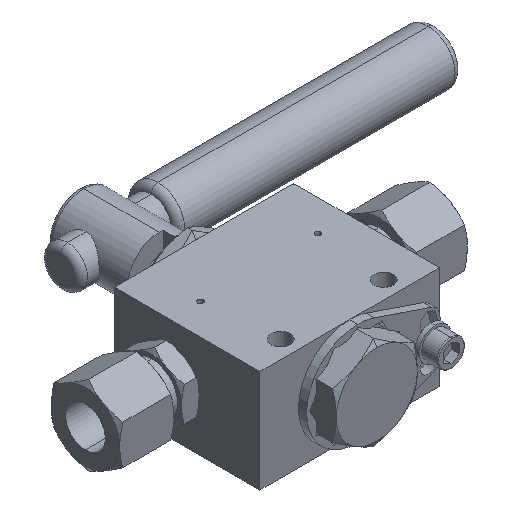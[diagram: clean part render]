
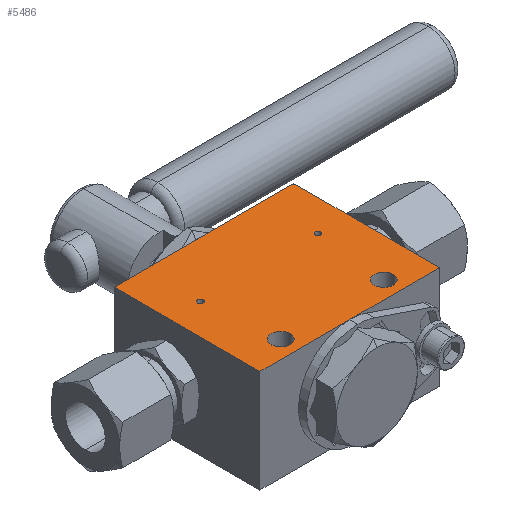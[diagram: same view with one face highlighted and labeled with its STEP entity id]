
A CAD part, isometric view. The second image highlights one B-rep face of the part: STEP entity #5486.
In plain terms, the highlighted planar face has unit normal (0, 0, 1).
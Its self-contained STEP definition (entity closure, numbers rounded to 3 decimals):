
#118 = CARTESIAN_POINT ( 'NONE',  ( 20.75, 6.5, 19. ) ) ;
#296 = EDGE_LOOP ( 'NONE', ( #1774, #8262 ) ) ;
#318 = EDGE_LOOP ( 'NONE', ( #3529, #2280, #2925, #3323, #6274 ) ) ;
#371 = EDGE_LOOP ( 'NONE', ( #1208, #6585 ) ) ;
#417 = DIRECTION ( 'NONE',  ( 1., 0., 0. ) ) ;
#542 = DIRECTION ( 'NONE',  ( 1., 0., 0. ) ) ;
#567 = DIRECTION ( 'NONE',  ( 0., 0., -1. ) ) ;
#638 = EDGE_CURVE ( 'NONE', #932, #3636, #4053, .T. ) ;
#640 = DIRECTION ( 'NONE',  ( 1., 0., 0. ) ) ;
#655 = CARTESIAN_POINT ( 'NONE',  ( -33.25, 27., 19. ) ) ;
#764 = CARTESIAN_POINT ( 'NONE',  ( 33.25, -27., 19. ) ) ;
#767 = CARTESIAN_POINT ( 'NONE',  ( 0., -27., 19. ) ) ;
#784 = AXIS2_PLACEMENT_3D ( 'NONE', #5159, #567, #1966 ) ;
#890 = CARTESIAN_POINT ( 'NONE',  ( -19.05, -20.5, 19. ) ) ;
#932 = VERTEX_POINT ( 'NONE', #2003 ) ;
#1057 = DIRECTION ( 'NONE',  ( 0., 0., 1. ) ) ;
#1100 = CARTESIAN_POINT ( 'NONE',  ( -33.25, 27., 19. ) ) ;
#1208 = ORIENTED_EDGE ( 'NONE', *, *, #4608, .F. ) ;
#1271 = EDGE_CURVE ( 'NONE', #5061, #4314, #1962, .T. ) ;
#1366 = VERTEX_POINT ( 'NONE', #8250 ) ;
#1399 = AXIS2_PLACEMENT_3D ( 'NONE', #7046, #1057, #542 ) ;
#1437 = DIRECTION ( 'NONE',  ( 0., 0., 1. ) ) ;
#1446 = CARTESIAN_POINT ( 'NONE',  ( -20.75, 6.5, 19. ) ) ;
#1710 = VERTEX_POINT ( 'NONE', #764 ) ;
#1768 = DIRECTION ( 'NONE',  ( -1., 0., 0. ) ) ;
#1774 = ORIENTED_EDGE ( 'NONE', *, *, #6614, .F. ) ;
#1913 = VECTOR ( 'NONE', #1768, 1000. ) ;
#1924 = CIRCLE ( 'NONE', #3271, 1. ) ;
#1962 = LINE ( 'NONE', #8297, #4805 ) ;
#1966 = DIRECTION ( 'NONE',  ( -1., 0., 0. ) ) ;
#1970 = VERTEX_POINT ( 'NONE', #655 ) ;
#1998 = EDGE_CURVE ( 'NONE', #1970, #5061, #2368, .T. ) ;
#2003 = CARTESIAN_POINT ( 'NONE',  ( 22.75, 6.5, 19. ) ) ;
#2019 = AXIS2_PLACEMENT_3D ( 'NONE', #4237, #6824, #417 ) ;
#2280 = ORIENTED_EDGE ( 'NONE', *, *, #3458, .T. ) ;
#2368 = LINE ( 'NONE', #3927, #7030 ) ;
#2468 = EDGE_LOOP ( 'NONE', ( #8123, #4719 ) ) ;
#2500 = DIRECTION ( 'NONE',  ( 0., 0., 1. ) ) ;
#2524 = CARTESIAN_POINT ( 'NONE',  ( 15.55, -20.5, 19. ) ) ;
#2556 = FACE_BOUND ( 'NONE', #2468, .T. ) ;
#2675 = EDGE_CURVE ( 'NONE', #1710, #4582, #5403, .T. ) ;
#2676 = CARTESIAN_POINT ( 'NONE',  ( -22.55, -20.5, 19. ) ) ;
#2925 = ORIENTED_EDGE ( 'NONE', *, *, #1998, .T. ) ;
#3271 = AXIS2_PLACEMENT_3D ( 'NONE', #4769, #1437, #6038 ) ;
#3281 = DIRECTION ( 'NONE',  ( 1., 0., 0. ) ) ;
#3323 = ORIENTED_EDGE ( 'NONE', *, *, #1271, .T. ) ;
#3413 = CARTESIAN_POINT ( 'NONE',  ( -22.75, 6.5, 19. ) ) ;
#3458 = EDGE_CURVE ( 'NONE', #4582, #1970, #7393, .T. ) ;
#3522 = ORIENTED_EDGE ( 'NONE', *, *, #8189, .F. ) ;
#3529 = ORIENTED_EDGE ( 'NONE', *, *, #2675, .T. ) ;
#3579 = AXIS2_PLACEMENT_3D ( 'NONE', #5226, #3985, #6607 ) ;
#3636 = VERTEX_POINT ( 'NONE', #118 ) ;
#3797 = FACE_BOUND ( 'NONE', #371, .T. ) ;
#3927 = CARTESIAN_POINT ( 'NONE',  ( -33.25, -27., 19. ) ) ;
#3939 = DIRECTION ( 'NONE',  ( 1., 0., 0. ) ) ;
#3985 = DIRECTION ( 'NONE',  ( 0., 0., 1. ) ) ;
#4046 = VECTOR ( 'NONE', #4726, 1000. ) ;
#4053 = CIRCLE ( 'NONE', #7033, 1. ) ;
#4186 = AXIS2_PLACEMENT_3D ( 'NONE', #890, #4753, #5391 ) ;
#4237 = CARTESIAN_POINT ( 'NONE',  ( -21.75, 6.5, 19. ) ) ;
#4314 = VERTEX_POINT ( 'NONE', #767 ) ;
#4384 = DIRECTION ( 'NONE',  ( 1., 0., 0. ) ) ;
#4568 = EDGE_LOOP ( 'NONE', ( #3522, #6749 ) ) ;
#4582 = VERTEX_POINT ( 'NONE', #5094 ) ;
#4587 = LINE ( 'NONE', #6608, #7026 ) ;
#4608 = EDGE_CURVE ( 'NONE', #6729, #5538, #6832, .T. ) ;
#4681 = CIRCLE ( 'NONE', #3579, 3.5 ) ;
#4719 = ORIENTED_EDGE ( 'NONE', *, *, #7660, .F. ) ;
#4726 = DIRECTION ( 'NONE',  ( 0., 1., 0. ) ) ;
#4751 = EDGE_CURVE ( 'NONE', #6032, #1366, #4681, .T. ) ;
#4753 = DIRECTION ( 'NONE',  ( 0., 0., 1. ) ) ;
#4769 = CARTESIAN_POINT ( 'NONE',  ( 21.75, 6.5, 19. ) ) ;
#4805 = VECTOR ( 'NONE', #640, 1000. ) ;
#4915 = AXIS2_PLACEMENT_3D ( 'NONE', #7197, #5249, #3281 ) ;
#5061 = VERTEX_POINT ( 'NONE', #8307 ) ;
#5094 = CARTESIAN_POINT ( 'NONE',  ( 33.25, 27., 19. ) ) ;
#5159 = CARTESIAN_POINT ( 'NONE',  ( 0., 0., 19. ) ) ;
#5226 = CARTESIAN_POINT ( 'NONE',  ( 19.05, -20.5, 19. ) ) ;
#5249 = DIRECTION ( 'NONE',  ( 0., 0., 1. ) ) ;
#5391 = DIRECTION ( 'NONE',  ( 1., 0., 0. ) ) ;
#5403 = LINE ( 'NONE', #6127, #4046 ) ;
#5423 = CIRCLE ( 'NONE', #7185, 3.5 ) ;
#5486 = ADVANCED_FACE ( 'NONE', ( #7881, #3797, #5790, #8374, #2556 ), #7839, .F. ) ;
#5538 = VERTEX_POINT ( 'NONE', #1446 ) ;
#5781 = VERTEX_POINT ( 'NONE', #5905 ) ;
#5785 = EDGE_CURVE ( 'NONE', #4314, #1710, #4587, .T. ) ;
#5790 = FACE_BOUND ( 'NONE', #4568, .T. ) ;
#5905 = CARTESIAN_POINT ( 'NONE',  ( -15.55, -20.5, 19. ) ) ;
#5908 = EDGE_CURVE ( 'NONE', #5781, #8027, #7853, .T. ) ;
#6002 = EDGE_CURVE ( 'NONE', #5538, #6729, #7587, .T. ) ;
#6032 = VERTEX_POINT ( 'NONE', #2524 ) ;
#6038 = DIRECTION ( 'NONE',  ( 1., 0., 0. ) ) ;
#6127 = CARTESIAN_POINT ( 'NONE',  ( 33.25, -27., 19. ) ) ;
#6274 = ORIENTED_EDGE ( 'NONE', *, *, #5785, .T. ) ;
#6285 = DIRECTION ( 'NONE',  ( 0., -1., 0. ) ) ;
#6585 = ORIENTED_EDGE ( 'NONE', *, *, #6002, .F. ) ;
#6607 = DIRECTION ( 'NONE',  ( 1., 0., 0. ) ) ;
#6608 = CARTESIAN_POINT ( 'NONE',  ( -33.25, -27., 19. ) ) ;
#6614 = EDGE_CURVE ( 'NONE', #8027, #5781, #5423, .T. ) ;
#6729 = VERTEX_POINT ( 'NONE', #3413 ) ;
#6749 = ORIENTED_EDGE ( 'NONE', *, *, #638, .F. ) ;
#6824 = DIRECTION ( 'NONE',  ( 0., 0., 1. ) ) ;
#6832 = CIRCLE ( 'NONE', #1399, 1. ) ;
#7002 = DIRECTION ( 'NONE',  ( 0., 0., 1. ) ) ;
#7026 = VECTOR ( 'NONE', #3939, 1000. ) ;
#7030 = VECTOR ( 'NONE', #6285, 1000. ) ;
#7033 = AXIS2_PLACEMENT_3D ( 'NONE', #7676, #7002, #7510 ) ;
#7046 = CARTESIAN_POINT ( 'NONE',  ( -21.75, 6.5, 19. ) ) ;
#7185 = AXIS2_PLACEMENT_3D ( 'NONE', #7609, #2500, #4384 ) ;
#7197 = CARTESIAN_POINT ( 'NONE',  ( 19.05, -20.5, 19. ) ) ;
#7393 = LINE ( 'NONE', #1100, #1913 ) ;
#7510 = DIRECTION ( 'NONE',  ( 1., 0., 0. ) ) ;
#7587 = CIRCLE ( 'NONE', #2019, 1. ) ;
#7609 = CARTESIAN_POINT ( 'NONE',  ( -19.05, -20.5, 19. ) ) ;
#7660 = EDGE_CURVE ( 'NONE', #1366, #6032, #8295, .T. ) ;
#7676 = CARTESIAN_POINT ( 'NONE',  ( 21.75, 6.5, 19. ) ) ;
#7839 = PLANE ( 'NONE',  #784 ) ;
#7853 = CIRCLE ( 'NONE', #4186, 3.5 ) ;
#7881 = FACE_OUTER_BOUND ( 'NONE', #318, .T. ) ;
#8027 = VERTEX_POINT ( 'NONE', #2676 ) ;
#8123 = ORIENTED_EDGE ( 'NONE', *, *, #4751, .F. ) ;
#8189 = EDGE_CURVE ( 'NONE', #3636, #932, #1924, .T. ) ;
#8250 = CARTESIAN_POINT ( 'NONE',  ( 22.55, -20.5, 19. ) ) ;
#8262 = ORIENTED_EDGE ( 'NONE', *, *, #5908, .F. ) ;
#8295 = CIRCLE ( 'NONE', #4915, 3.5 ) ;
#8297 = CARTESIAN_POINT ( 'NONE',  ( -33.25, -27., 19. ) ) ;
#8307 = CARTESIAN_POINT ( 'NONE',  ( -33.25, -27., 19. ) ) ;
#8374 = FACE_BOUND ( 'NONE', #296, .T. ) ;
